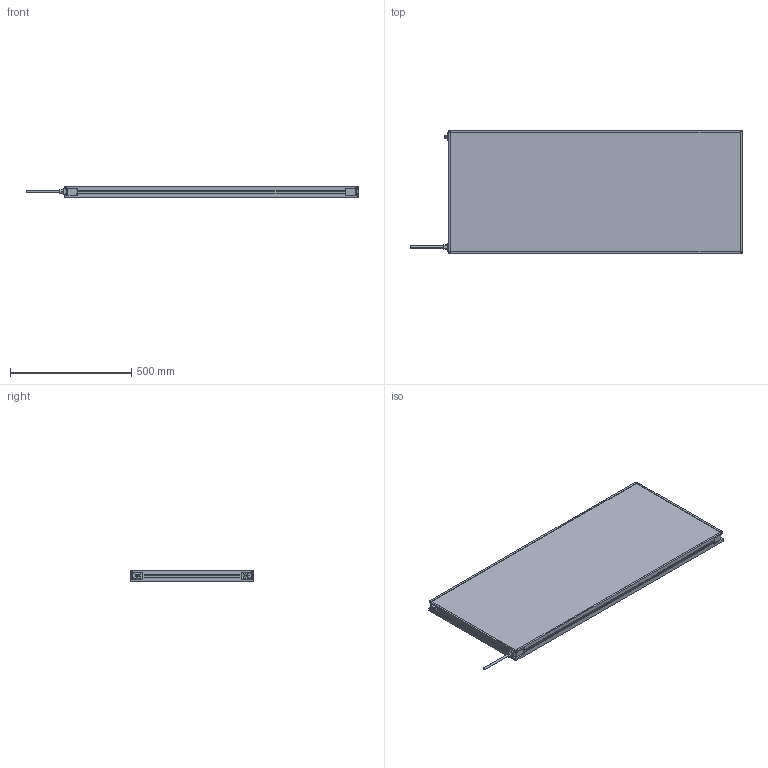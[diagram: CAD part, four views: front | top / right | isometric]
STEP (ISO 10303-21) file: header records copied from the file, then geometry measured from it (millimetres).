
FILE_DESCRIPTION (( 'STEP AP214' ), '1' );
FILE_NAME ('MBACK-xxxx-xxx-M1A2_CLIENT500x1200.STEP', '2022-04-01T11:40:34', ( '' ), ( '' ), 'SwSTEP 2.0', 'SolidWorks 2020', '' );
FILE_SCHEMA (( 'AUTOMOTIVE_DESIGN' ));
Length unit declared in the file: millimetre
Products named in the file (1): MBACK-xxxx-xxx-M1A2_CLIENT500x1200
Bounding box: 1367.4 x 508 x 45.5 mm (x, y, z)
Volume: 25556509.1 mm3; surface area: 1461223.3 mm2
Topology: 1 solids, 1 shells, 470 faces, 1210 edges, 804 vertices
Faces by surface type: plane 265, cylinder 117, bspline 80, cone 8
Entity records: 18046 total; most frequent: CARTESIAN_POINT 6837, ORIENTED_EDGE 2420, DIRECTION 2082, EDGE_CURVE 1210, VERTEX_POINT 804, VECTOR 800, LINE 800, AXIS2_PLACEMENT_3D 641
